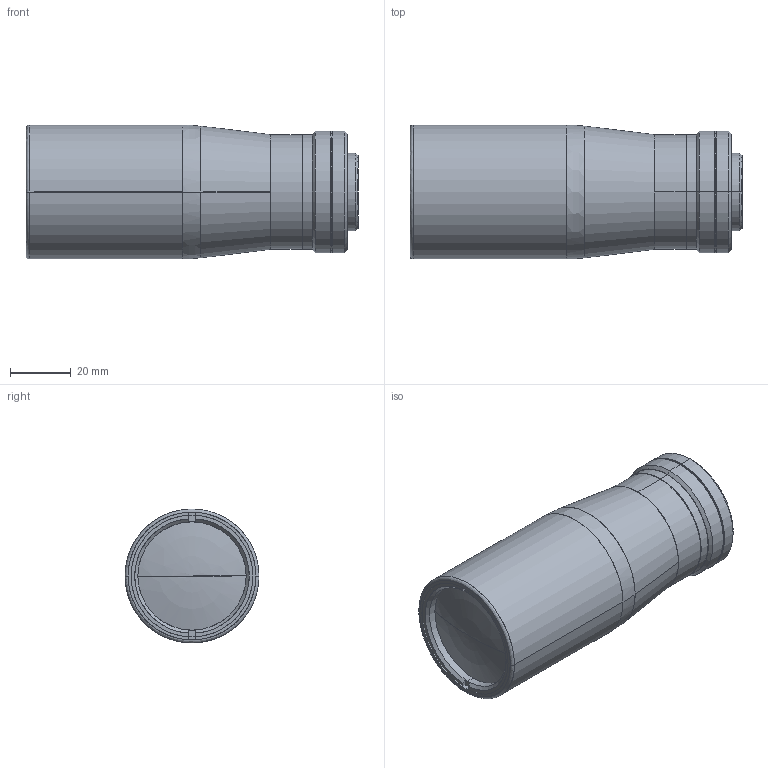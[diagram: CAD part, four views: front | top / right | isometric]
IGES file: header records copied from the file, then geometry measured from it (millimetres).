
Start section: SolidWorks IGES file using analytic representation for surfaces
Global section: file name: \\172.16.20.198\dati\R&D\01 archivio\DPXXXXX-X\DP24145_TC13024.igs; native system: SolidWorks 2021; preprocessor: SolidWorks 2021; author: bertolucci; date: 210909.165151; units: millimetre
Bounding box: 109.08 x 44 x 44 mm (x, y, z)
Surface area: 22985 mm2 (no closed solid volume)
Topology: 0 solids, 0 shells, 68 faces, 1794 edges, 1792 vertices
Faces by surface type: revolution 44, bspline 24
